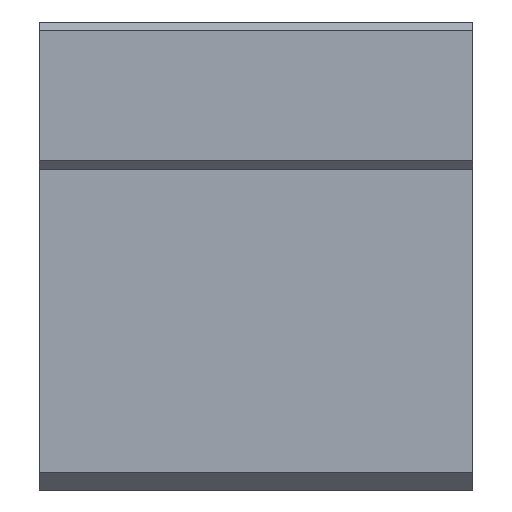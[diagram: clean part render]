
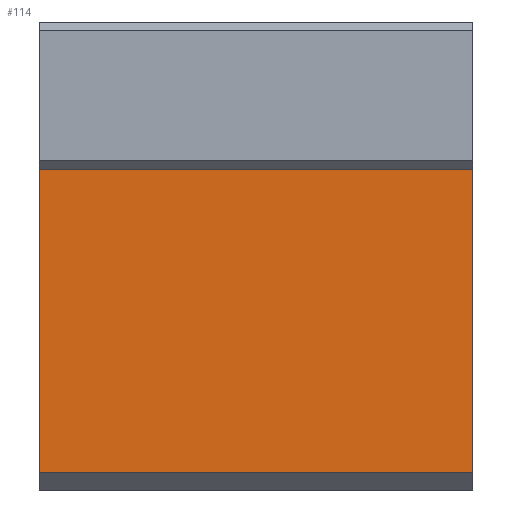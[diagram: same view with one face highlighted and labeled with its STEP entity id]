
A CAD part, front view. The second image highlights one B-rep face of the part: STEP entity #114.
In plain terms, the highlighted planar face has unit normal (0, -1, 0).
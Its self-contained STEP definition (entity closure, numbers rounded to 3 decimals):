
#51=CARTESIAN_POINT('',(0.0,-42.0,14.));
#52=VERTEX_POINT('',#51);
#59=CARTESIAN_POINT('',(50.0,-42.0,14.));
#60=VERTEX_POINT('',#59);
#61=CARTESIAN_POINT('',(0.0,-42.0,14.));
#62=DIRECTION('',(1.0,0.0,0.0));
#63=VECTOR('',#62,50.0);
#64=LINE('',#61,#63);
#65=EDGE_CURVE('',#52,#60,#64,.T.);
#84=CARTESIAN_POINT('',(0.0,-42.,-23.));
#85=DIRECTION('',(0.0,-1.0,0.0));
#86=DIRECTION('',(0.0,0.0,-1.0));
#87=AXIS2_PLACEMENT_3D('',#84,#85,#86);
#88=PLANE('',#87);
#89=ORIENTED_EDGE('',*,*,#65,.F.);
#90=CARTESIAN_POINT('',(0.0,-42.,-21.));
#91=VERTEX_POINT('',#90);
#92=CARTESIAN_POINT('',(0.0,-42.0,14.));
#93=DIRECTION('',(0.0,0.0,-1.0));
#94=VECTOR('',#93,35.);
#95=LINE('',#92,#94);
#96=EDGE_CURVE('',#52,#91,#95,.T.);
#97=ORIENTED_EDGE('',*,*,#96,.T.);
#98=CARTESIAN_POINT('',(50.0,-42.,-21.));
#99=VERTEX_POINT('',#98);
#100=CARTESIAN_POINT('',(50.0,-42.,-21.));
#101=DIRECTION('',(-1.0,0.0,0.0));
#102=VECTOR('',#101,50.0);
#103=LINE('',#100,#102);
#104=EDGE_CURVE('',#99,#91,#103,.T.);
#105=ORIENTED_EDGE('',*,*,#104,.F.);
#106=CARTESIAN_POINT('',(50.0,-42.,-21.));
#107=DIRECTION('',(0.0,0.0,1.0));
#108=VECTOR('',#107,35.);
#109=LINE('',#106,#108);
#110=EDGE_CURVE('',#99,#60,#109,.T.);
#111=ORIENTED_EDGE('',*,*,#110,.T.);
#112=EDGE_LOOP('',(#89,#97,#105,#111));
#113=FACE_OUTER_BOUND('',#112,.T.);
#114=ADVANCED_FACE('',(#113),#88,.T.);
